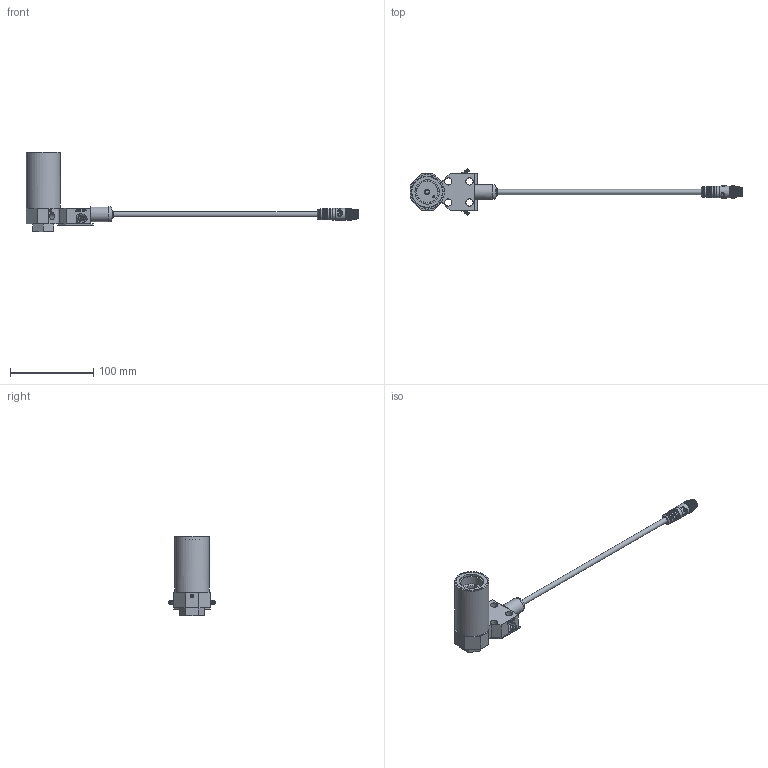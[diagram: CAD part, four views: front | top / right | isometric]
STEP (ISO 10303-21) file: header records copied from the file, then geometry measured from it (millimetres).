
FILE_DESCRIPTION(/* description */ ('ASSY,BODY,VF,IA,SXQR4,NHP_0002716292'),/* implementation_level */ '2;1');
FILE_NAME(/* name */ 'X:\ASSY,BODY,VF,IA,SXQR4,NHP_0002716292.stp',/* time_stamp */ '2021-07-07T14:11:24-04:00',/* author */ ('Simon.Britton'),/* organization */ (''),/* preprocessor_version */ 'ST-DEVELOPER v17',/* originating_system */ 'Autodesk Inventor 2019',/* authorisation */ '');
FILE_SCHEMA (('AUTOMOTIVE_DESIGN { 1 0 10303 214 3 1 1 }'));
Length unit declared in the file: millimetre
Products named in the file (1): ASSY,BODY,VF,IA,SXQR4,NHP_0002716292
Bounding box: 398.47 x 56.29 x 95.12 mm (x, y, z)
Surface area: 68084.3 mm2
Topology: 14 solids, 15 shells, 3811 faces, 9073 edges, 5399 vertices
Faces by surface type: bspline 2423, plane 654, cylinder 640, cone 58, torus 23, sphere 13
Full cylindrical faces by diameter (mm): 1 x5, 1.05 x5, 1.25 x10, 1.35 x5, 1.6 x10, 1.8 x5, 1.85 x5, 2 x1, 2.381 x2, 2.388 x5, 2.7 x1, 3.175 x2, 3.734 x2, 3.81 x2, 3.962 x2, 4.064 x4, 4.216 x4, 4.366 x1, 4.8 x3, 5.556 x1, 6.35 x9, 7.95 x1, 8.731 x10, 9.4 x1, 9.7 x2, 10.6 x2, 10.9 x1, 12 x4, 12.7 x2, 13.716 x1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
Entity records: 251123 total; most frequent: CARTESIAN_POINT 169245, ORIENTED_EDGE 18096, DIRECTION 13219, EDGE_CURVE 9048, AXIS2_PLACEMENT_3D 5707, VERTEX_POINT 5393, CIRCLE 4262, EDGE_LOOP 3985
